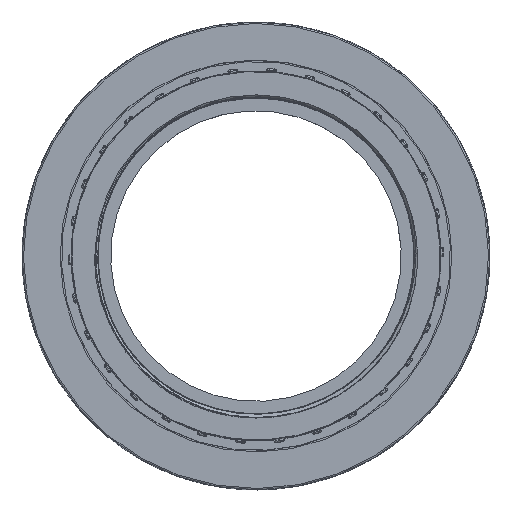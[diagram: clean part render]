
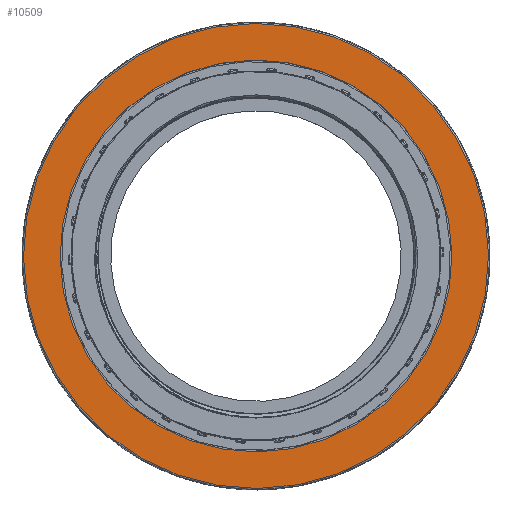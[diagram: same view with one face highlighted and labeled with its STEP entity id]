
A CAD part, top view. The second image highlights one B-rep face of the part: STEP entity #10509.
In plain terms, the highlighted planar face has unit normal (0, 0, 1).
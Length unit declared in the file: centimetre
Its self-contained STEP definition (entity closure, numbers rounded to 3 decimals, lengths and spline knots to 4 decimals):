
#2076=FACE_BOUND('',#3025,.T.);
#2439=FACE_OUTER_BOUND('',#3024,.T.);
#3024=EDGE_LOOP('',(#8138));
#3025=EDGE_LOOP('',(#8139));
#3637=CIRCLE('',#11394,8.1);
#3639=CIRCLE('',#11397,6.825);
#4423=VERTEX_POINT('',#29847);
#4425=VERTEX_POINT('',#29852);
#5726=EDGE_CURVE('',#4423,#4423,#3637,.T.);
#5728=EDGE_CURVE('',#4425,#4425,#3639,.T.);
#8138=ORIENTED_EDGE('',*,*,#5726,.F.);
#8139=ORIENTED_EDGE('',*,*,#5728,.T.);
#9491=PLANE('',#11396);
#10509=ADVANCED_FACE('',(#2439,#2076),#9491,.T.);
#11394=AXIS2_PLACEMENT_3D('',#29848,#13583,#13584);
#11396=AXIS2_PLACEMENT_3D('',#29851,#13587,#13588);
#11397=AXIS2_PLACEMENT_3D('',#29853,#13589,#13590);
#13583=DIRECTION('center_axis',(0.,0.,
-1.));
#13584=DIRECTION('ref_axis',(0.87,-0.493,0.));
#13587=DIRECTION('center_axis',(0.,0.,
1.));
#13588=DIRECTION('ref_axis',(-0.493,-0.87,0.));
#13589=DIRECTION('center_axis',(0.,0.,
-1.));
#13590=DIRECTION('ref_axis',(0.87,-0.493,0.));
#29847=CARTESIAN_POINT('',(-7.045,3.9972,3.56));
#29848=CARTESIAN_POINT('Origin',(0.,0.,
3.56));
#29851=CARTESIAN_POINT('Origin',(-7.0885,4.0218,3.56));
#29852=CARTESIAN_POINT('',(-5.9361,3.368,3.56));
#29853=CARTESIAN_POINT('Origin',(0.,0.,
3.56));
